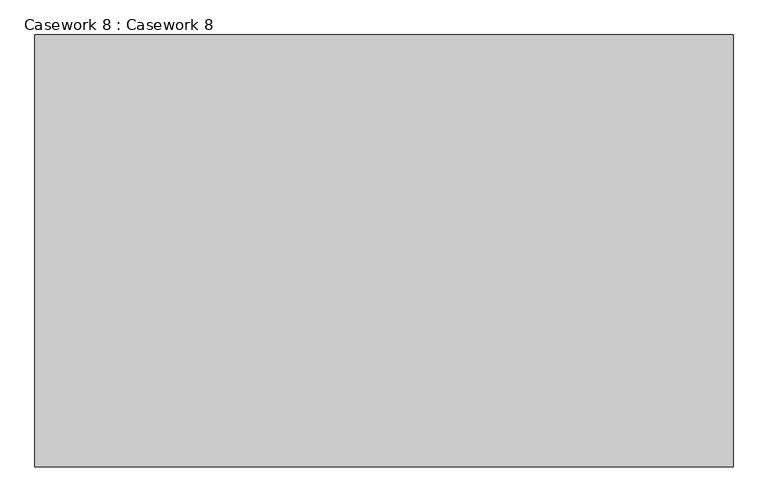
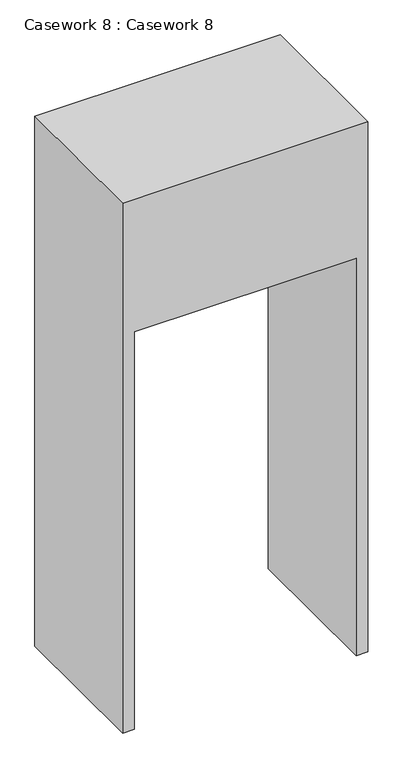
"""IFC4 building model written with IfcOpenShell, lengths in millimetres: furniture geometry, Casework 8 : Casework 8."""

from ifc_helpers import new_model, si_unit, frame, origin, place, context, project, spatial, polyline, outline, extrude, source, transform, mapped, element, save


def casework_8_casework_8_5553da1a(model_context):
    return source(origin(), model_context, "Body", "SweptSolid", [
        extrude(outline(polyline([(5688.0125, 2870.2), (3251.2, 2870.2), (3251.2, 2921.0), (5080.0, 2921.0), (5080.0, 3886.2), (3251.2, 3886.2), (3251.2, 3937.0), (5688.0125, 3937.0), (5688.0125, 2870.2)])), frame((0.0, 9436.1, 0.0), z_axis=(0.0, 1.0, 0.0), x_axis=(0.0, 0.0, 1.0)), (0.0, 0.0, 1.0), 660.4),
    ])


if __name__ == "__main__":
    model = new_model("IFC4")
    model_context = context("Model", 3, world=origin())
    ifc_project = project(units=[si_unit("LENGTHUNIT", "METRE", prefix="MILLI")], contexts=[model_context])
    site = spatial("IfcSite", under=ifc_project)
    building = spatial("IfcBuilding", under=site)
    placement = place(None, origin())
    casework_8_casework_8_shape = casework_8_casework_8_5553da1a(model_context)
    element("IfcFurniture", 1, ObjectType="Casework 8 : Casework 8", at=placement, inside=building, context=model_context, shape_type="MappedRepresentation", body=[
        mapped(casework_8_casework_8_shape, transform((0.0, 0.0, 0.0), x_axis=(1.0, 0.0, 0.0), y_axis=(0.0, 1.0, 0.0), z_axis=(0.0, 0.0, 1.0))),
    ])
    save(model, "model.ifc")
